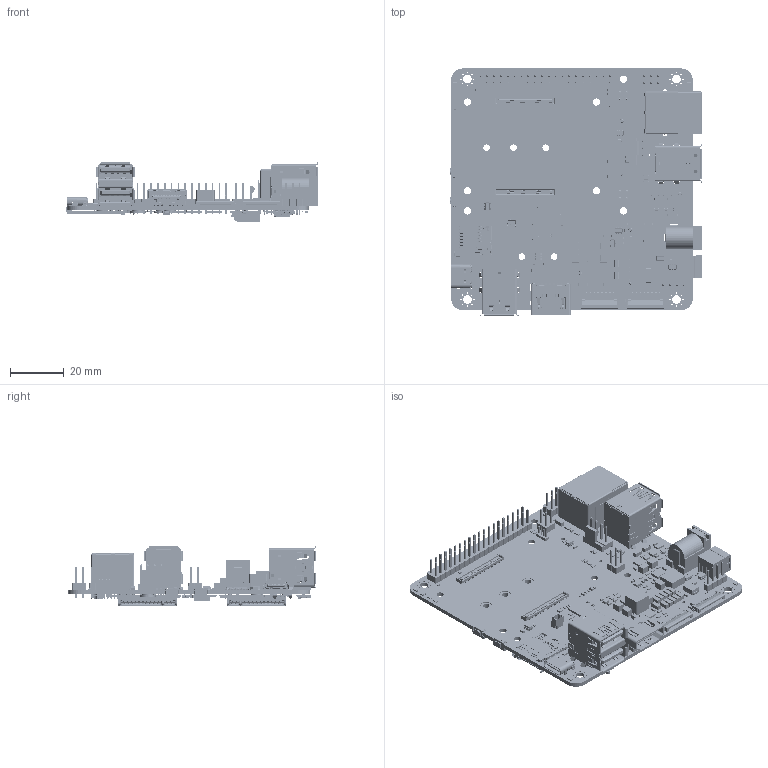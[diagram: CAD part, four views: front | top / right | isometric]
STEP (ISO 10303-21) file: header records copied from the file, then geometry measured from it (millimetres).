
FILE_DESCRIPTION(('KiCad electronic assembly'),'2;1');
FILE_NAME('TOFU5.step','2025-12-12T10:04:28',('Pcbnew'),('Kicad'), 'Open CASCADE STEP processor 7.9','KiCad to STEP converter','Unknown' );
FILE_SCHEMA(('AUTOMOTIVE_DESIGN { 1 0 10303 214 1 1 1 1 }'));
Length unit declared in the file: millimetre
Products named in the file (129): TOFU5 1; C_0603_1608Metric; C_1206_3216Metric; FH12-22S-0.5SHa; PinHeader_2x03_P2.54mm_Vertical; R_0603_1608Metric; FSUSB42UMX; Body; PinsArrayLR; PinsArrayTB; 47151-1051; SOLID; COMPOUND; PinHeader_2x02_P2.54mm_Vertical; D_SOD-523; SOT-23-6; PinHeader_1x04_P2.54mm_Vertical; USON-10_2.5x1.0mm_P0.5mm; SOT-353_SC-70-5; A70-112-331N126--3DModel-STEP-56544; C_1210_3225Metric; QFN-56-1EP_7x7mm_P0.4mm_EP4x4mm; TOFU5 1.39.1; WSON-6-1EP_2x2mm_P0.65mm_EP1x1.6mm; SOT-563; C_0402_1005Metric; 48406-0001; CUI_DEVICES_PJ-102AH; MAX20410AFOF_VY+; Coilcraft-XAL6030; BM02B-SRSS-TB_LF__SN_; R_0805_2012Metric; D_SOD-323; STP_629722000214 (rev1); 629722000214_Housing; 629722000214_Pin1_Top; 629722000214_Pin4_Bottom; 629722000214_Pin4_Top; 629722000214_Pin1_Bottom; 629722000214_Pin3_Bottom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
Assembly tree (345 placements, depth 3):
  TOFU5 1
    C_0603_1608Metric  x41
    C_1206_3216Metric  x17
    FH12-22S-0.5SHa  x2
    PinHeader_2x03_P2.54mm_Vertical
    R_0603_1608Metric  x53
    FSUSB42UMX
      Body
      PinsArrayLR
      PinsArrayTB
    47151-1051
      SOLID
      COMPOUND
    PinHeader_2x02_P2.54mm_Vertical  x2
    D_SOD-523  x5
    SOT-23-6  x2
    PinHeader_1x04_P2.54mm_Vertical
    USON-10_2.5x1.0mm_P0.5mm  x4
    SOT-353_SC-70-5
    A70-112-331N126--3DModel-STEP-56544
    C_1210_3225Metric  x7
    QFN-56-1EP_7x7mm_P0.4mm_EP4x4mm
      TOFU5 1.39.1
    WSON-6-1EP_2x2mm_P0.65mm_EP1x1.6mm  x4
    SOT-563  x3
    C_0402_1005Metric  x42
    48406-0001  x2
      SOLID
      COMPOUND
    CUI_DEVICES_PJ-102AH
    MAX20410AFOF_VY+
    Coilcraft-XAL6030
    BM02B-SRSS-TB_LF__SN_
    R_0805_2012Metric  x4
    D_SOD-323  x2
    STP_629722000214 (rev1)
      629722000214_Housing
      629722000214_Pin1_Top
      629722000214_Pin4_Bottom
      629722000214_Pin4_Top  x2
      629722000214_Pin1_Bottom
      629722000214_Pin3_Bottom
      629722000214_Pin3_Top
      629722000214_Pin2_Top
      629722000214_Pin2_Bottom
      629722000214_Pin1_Top_mir
      629722000214_Pin1_Bottom_mir
      629722000214_Pin2_Top_mir
      629722000214_Pin2_Bottom_mir
      629722000214_Pin3_Top_mir
      629722000214_Pin3_Bottom_mir
      629722000214_Pin4_Bottom_mir
      629722000214_Shielding2
      629722000214_Shielding
    ECMF04-4HSWM10  x2
    Crystal_SMD_3225-4Pin_3.2x2.5mm
    R_0402_1005Metric  x5
    D_SMB
    L_Cenker_CKCS201610
    ECMF04-4HSWM10  x6
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Bounding box: 94 x 91.94 x 21.98 mm (x, y, z)
Volume: 26469.9 mm3; surface area: 45382.2 mm2
Topology: 633 solids, 729 shells, 30971 faces, 83557 edges, 55304 vertices
Faces by surface type: plane 23900, cylinder 6402, bspline 537, cone 89, sphere 24, torus 11, revolution 8
Full cylindrical faces by diameter (mm): 0.1 x8, 0.175 x1, 0.2 x13, 0.25 x7, 0.4 x2, 0.438 x1, 0.5 x35, 0.65 x6, 0.7 x36, 0.9 x16, 1 x58, 1.02 x4, 1.07 x4, 1.1 x1, 1.15 x1, 1.3 x1, 1.35 x2, 1.6 x1, 1.65 x1, 1.7 x2, 1.8 x2, 2.3 x8, 2.459 x5, 2.7 x7, 3.2 x6, 4.2 x5, 4.3 x5, 6 x5
Entity records: 645902 total; most frequent: CARTESIAN_POINT 117686, ORIENTED_EDGE 101496, DIRECTION 94635, EDGE_CURVE 50752, LINE 42759, VECTOR 42759, VERTEX_POINT 33245, AXIS2_PLACEMENT_3D 25934
